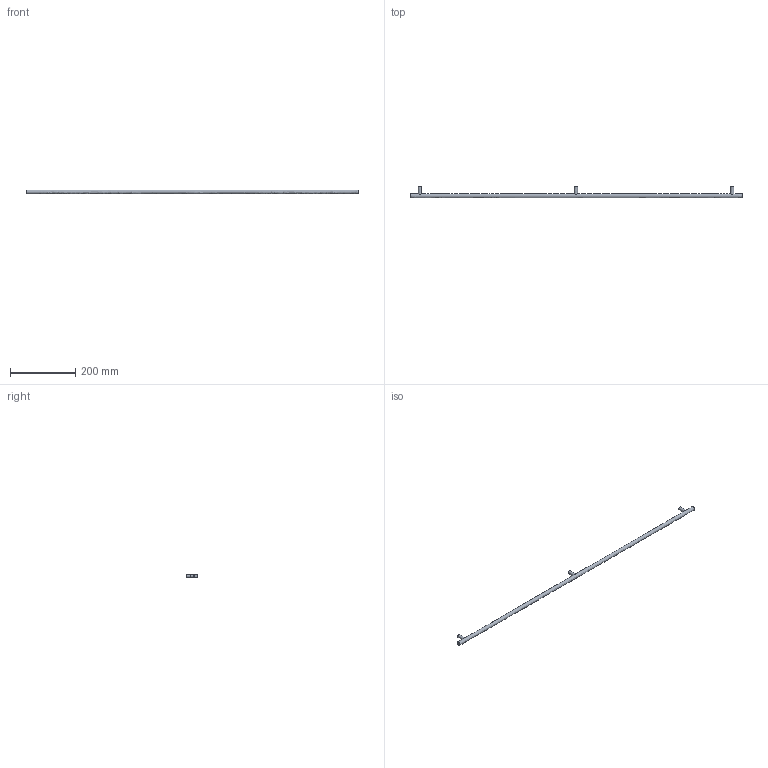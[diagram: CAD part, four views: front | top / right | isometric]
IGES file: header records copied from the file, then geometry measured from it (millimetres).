
Start section: Data from Parasolid IGES Translator 15.0.47, Copyright(c) 2006 Siemens P LM Software. All Rights Reserved.
Global section: file name: 9071041.igs; native system:  By UGS Corp.; preprocessor: XPlus GENERIC/IGES 3.0; author: Noname; organization: Noname; date: 20140122.181344; units: millimetre
Bounding box: 1020 x 35 x 12 mm (x, y, z)
Surface area: 41387.3 mm2 (no closed solid volume)
Topology: 0 solids, 0 shells, 15 faces, 42 edges, 30 vertices
Faces by surface type: extrusion 8, revolution 7
